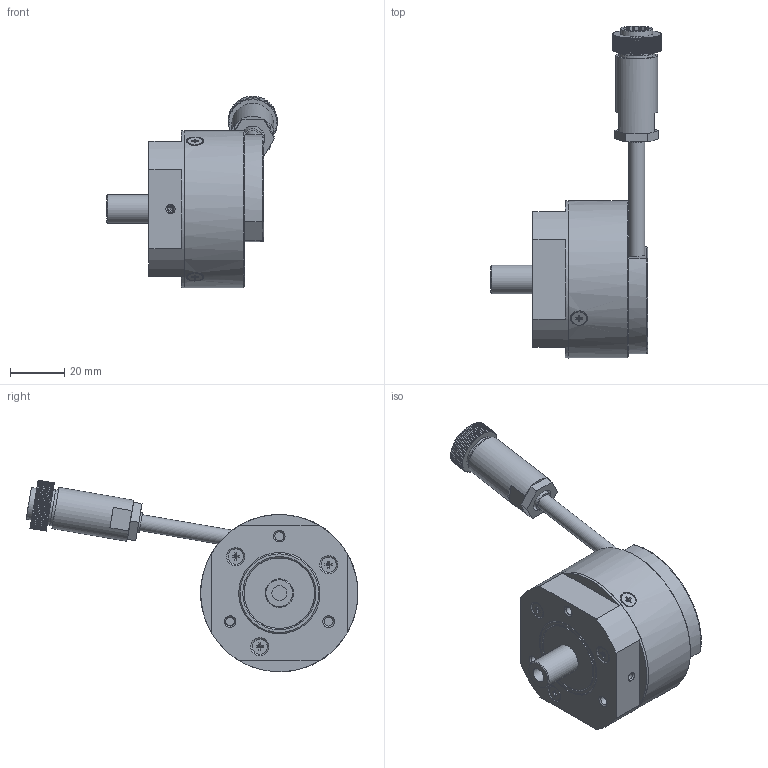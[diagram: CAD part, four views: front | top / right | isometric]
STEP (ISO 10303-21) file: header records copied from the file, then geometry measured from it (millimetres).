
FILE_DESCRIPTION(('STEP AP242'), '1');
FILE_NAME('ﾄﾌﾘﾊ.401269.006-01 ﾝ渼鮏褞 ﾈﾄﾌ58_ver 2', '', ('UNSPECIFIED'), ('UNSPECIFIED'), 'C3D Converter', 'C3D Toolkit', '');
FILE_SCHEMA(('AP242_MANAGED_MODEL_BASED_3D_ENGINEERING_MIM_LF { 1 0 10303 442 1 1 4 }'));
Length unit declared in the file: millimetre
Products named in the file (1): ДМШК.401269.006-01
Bounding box: 62.79 x 122.43 x 70.66 mm (x, y, z)
Volume: 77487.9 mm3; surface area: 38244.4 mm2
Topology: 3 solids, 6 shells, 732 faces, 1885 edges, 1230 vertices
Faces by surface type: plane 483, cylinder 198, cone 37, sphere 8, bspline 4, torus 2
Full cylindrical faces by diameter (mm): 0.02 x4, 0.8 x8, 0.9 x12, 1 x20, 2.459 x4, 3 x3, 3.01 x4, 3.242 x3, 5 x4, 5.5 x1, 5.6 x6, 5.9 x2, 6 x1, 7.3 x2, 8.7 x1, 9 x3, 10 x2, 10.1 x2, 10.5 x1, 10.917 x1, 11 x1, 11.8 x1, 12 x2, 13 x2, 13.5 x1, 15.4 x1, 18 x1, 26 x2, 30 x2, 52 x1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
Entity records: 30420 total; most frequent: CARTESIAN_POINT 6871, DIRECTION 3651, ORIENTED_EDGE 3455, EDGE_CURVE 1728, AXIS2_PLACEMENT_3D 1273, VERTEX_POINT 1224, LINE 1105, VECTOR 1105
